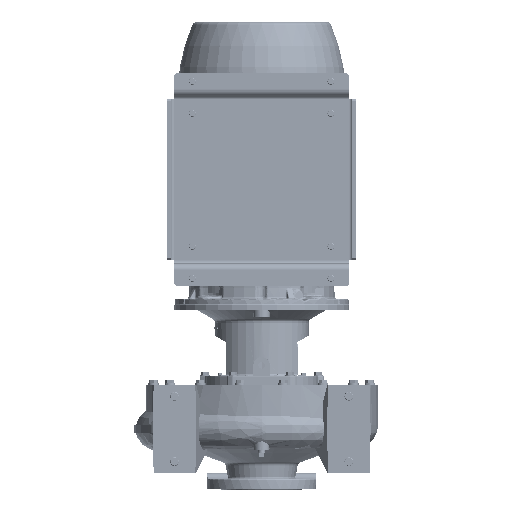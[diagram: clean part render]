
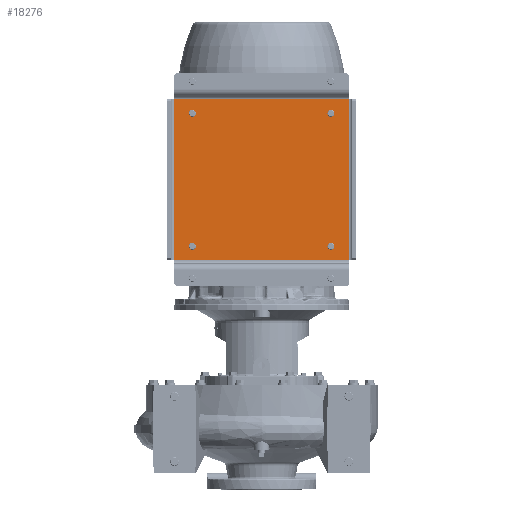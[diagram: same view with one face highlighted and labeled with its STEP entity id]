
A CAD part, front view. The second image highlights one B-rep face of the part: STEP entity #18276.
In plain terms, the highlighted planar face has unit normal (0, -1, 0).
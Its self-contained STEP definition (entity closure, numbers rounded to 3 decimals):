
#1291 = AXIS2_PLACEMENT_3D ( 'NONE', #14996, #167827, #277441 ) ;
#2059 = AXIS2_PLACEMENT_3D ( 'NONE', #80968, #14714, #254116 ) ;
#12425 = DIRECTION ( 'NONE',  ( 0., 0., -1. ) ) ;
#12529 = ORIENTED_EDGE ( 'NONE', *, *, #94201, .T. ) ;
#12885 = VECTOR ( 'NONE', #130720, 1000. ) ;
#14714 = DIRECTION ( 'NONE',  ( 0., 1., 0. ) ) ;
#14996 = CARTESIAN_POINT ( 'NONE',  ( 91.5, 71., -58. ) ) ;
#15908 = EDGE_CURVE ( 'NONE', #232606, #228880, #112355, .T. ) ;
#18276 = ADVANCED_FACE ( 'NONE', ( #191160, #169518, #59933, #84370, #234443 ), #256096, .T. ) ;
#18399 = VERTEX_POINT ( 'NONE', #160285 ) ;
#20132 = DIRECTION ( 'NONE',  ( -1., 0., 0. ) ) ;
#26286 = CIRCLE ( 'NONE', #90686, 8. ) ;
#30358 = EDGE_LOOP ( 'NONE', ( #262938, #204323 ) ) ;
#31152 = DIRECTION ( 'NONE',  ( 1., 0., 0. ) ) ;
#32939 = ORIENTED_EDGE ( 'NONE', *, *, #273044, .T. ) ;
#47120 = VERTEX_POINT ( 'NONE', #117783 ) ;
#47406 = AXIS2_PLACEMENT_3D ( 'NONE', #75531, #254366, #163521 ) ;
#54305 = CARTESIAN_POINT ( 'NONE',  ( 396.5, 71., -58. ) ) ;
#59933 = FACE_BOUND ( 'NONE', #125660, .T. ) ;
#62133 = CARTESIAN_POINT ( 'NONE',  ( 91.5, 71., -50. ) ) ;
#66879 = EDGE_LOOP ( 'NONE', ( #32939, #269630 ) ) ;
#70822 = CARTESIAN_POINT ( 'NONE',  ( 91.5, 71., -66. ) ) ;
#75531 = CARTESIAN_POINT ( 'NONE',  ( 396.5, 71., -58. ) ) ;
#75806 = AXIS2_PLACEMENT_3D ( 'NONE', #54305, #272096, #96107 ) ;
#76873 = VERTEX_POINT ( 'NONE', #165179 ) ;
#77996 = VERTEX_POINT ( 'NONE', #117810 ) ;
#80968 = CARTESIAN_POINT ( 'NONE',  ( 91.5, 71., -58. ) ) ;
#81982 = CARTESIAN_POINT ( 'NONE',  ( 396.5, 71., -384. ) ) ;
#82131 = CARTESIAN_POINT ( 'NONE',  ( 59., 71., -16. ) ) ;
#83555 = LINE ( 'NONE', #82131, #96799 ) ;
#84370 = FACE_BOUND ( 'NONE', #66879, .T. ) ;
#84922 = LINE ( 'NONE', #258086, #176103 ) ;
#85946 = EDGE_CURVE ( 'NONE', #144053, #47120, #279510, .T. ) ;
#90686 = AXIS2_PLACEMENT_3D ( 'NONE', #177269, #265269, #155646 ) ;
#91944 = CARTESIAN_POINT ( 'NONE',  ( 59., 71., -418. ) ) ;
#94201 = EDGE_CURVE ( 'NONE', #260769, #216745, #83555, .T. ) ;
#94652 = CARTESIAN_POINT ( 'NONE',  ( 429., 71., -16. ) ) ;
#96107 = DIRECTION ( 'NONE',  ( 0., 0., -1. ) ) ;
#96135 = ORIENTED_EDGE ( 'NONE', *, *, #164119, .T. ) ;
#96799 = VECTOR ( 'NONE', #20132, 1000. ) ;
#98561 = AXIS2_PLACEMENT_3D ( 'NONE', #253262, #147863, #12425 ) ;
#104362 = CARTESIAN_POINT ( 'NONE',  ( 91.5, 71., -376. ) ) ;
#112355 = CIRCLE ( 'NONE', #2059, 8. ) ;
#115634 = EDGE_CURVE ( 'NONE', #76873, #132785, #157930, .T. ) ;
#117783 = CARTESIAN_POINT ( 'NONE',  ( 396.5, 71., -368. ) ) ;
#117810 = CARTESIAN_POINT ( 'NONE',  ( 91.5, 71., -368. ) ) ;
#118985 = EDGE_LOOP ( 'NONE', ( #210765, #225366 ) ) ;
#125660 = EDGE_LOOP ( 'NONE', ( #235225, #135805 ) ) ;
#126482 = CIRCLE ( 'NONE', #75806, 8. ) ;
#130720 = DIRECTION ( 'NONE',  ( 0., 0., 1. ) ) ;
#131031 = EDGE_CURVE ( 'NONE', #208018, #194847, #182573, .T. ) ;
#131878 = CARTESIAN_POINT ( 'NONE',  ( 396.5, 71., -376. ) ) ;
#132785 = VERTEX_POINT ( 'NONE', #151644 ) ;
#135528 = DIRECTION ( 'NONE',  ( 0., 1., 0. ) ) ;
#135805 = ORIENTED_EDGE ( 'NONE', *, *, #85946, .T. ) ;
#143898 = CIRCLE ( 'NONE', #1291, 8. ) ;
#144053 = VERTEX_POINT ( 'NONE', #81982 ) ;
#147863 = DIRECTION ( 'NONE',  ( 0., -1., 0. ) ) ;
#149486 = EDGE_LOOP ( 'NONE', ( #12529, #96135, #207503, #231508 ) ) ;
#151644 = CARTESIAN_POINT ( 'NONE',  ( 396.5, 71., -50. ) ) ;
#155646 = DIRECTION ( 'NONE',  ( 0., 0., -1. ) ) ;
#157930 = CIRCLE ( 'NONE', #47406, 8. ) ;
#158591 = CARTESIAN_POINT ( 'NONE',  ( 91.5, 71., -376. ) ) ;
#160285 = CARTESIAN_POINT ( 'NONE',  ( 91.5, 71., -384. ) ) ;
#163521 = DIRECTION ( 'NONE',  ( 0., 0., -1. ) ) ;
#164119 = EDGE_CURVE ( 'NONE', #216745, #208018, #84922, .T. ) ;
#165179 = CARTESIAN_POINT ( 'NONE',  ( 396.5, 71., -66. ) ) ;
#167827 = DIRECTION ( 'NONE',  ( 0., 1., 0. ) ) ;
#169518 = FACE_BOUND ( 'NONE', #30358, .T. ) ;
#176103 = VECTOR ( 'NONE', #236435, 1000. ) ;
#176553 = DIRECTION ( 'NONE',  ( 0., 0., -1. ) ) ;
#177269 = CARTESIAN_POINT ( 'NONE',  ( 396.5, 71., -376. ) ) ;
#177967 = DIRECTION ( 'NONE',  ( 0., 1., 0. ) ) ;
#182573 = LINE ( 'NONE', #250349, #218995 ) ;
#190394 = AXIS2_PLACEMENT_3D ( 'NONE', #158591, #135528, #219211 ) ;
#191160 = FACE_OUTER_BOUND ( 'NONE', #149486, .T. ) ;
#192351 = DIRECTION ( 'NONE',  ( 0., 0., -1. ) ) ;
#194847 = VERTEX_POINT ( 'NONE', #234223 ) ;
#196591 = EDGE_CURVE ( 'NONE', #228880, #232606, #143898, .T. ) ;
#201269 = AXIS2_PLACEMENT_3D ( 'NONE', #131878, #177967, #176553 ) ;
#202814 = CARTESIAN_POINT ( 'NONE',  ( 59., 71., -16. ) ) ;
#204323 = ORIENTED_EDGE ( 'NONE', *, *, #196591, .T. ) ;
#207503 = ORIENTED_EDGE ( 'NONE', *, *, #131031, .T. ) ;
#208018 = VERTEX_POINT ( 'NONE', #91944 ) ;
#210765 = ORIENTED_EDGE ( 'NONE', *, *, #271226, .T. ) ;
#212555 = DIRECTION ( 'NONE',  ( 0., 1., 0. ) ) ;
#216745 = VERTEX_POINT ( 'NONE', #202814 ) ;
#217964 = CIRCLE ( 'NONE', #190394, 8. ) ;
#218645 = LINE ( 'NONE', #224327, #12885 ) ;
#218995 = VECTOR ( 'NONE', #31152, 1000. ) ;
#219211 = DIRECTION ( 'NONE',  ( 0., 0., -1. ) ) ;
#224327 = CARTESIAN_POINT ( 'NONE',  ( 429., 71., -16. ) ) ;
#225366 = ORIENTED_EDGE ( 'NONE', *, *, #115634, .T. ) ;
#228880 = VERTEX_POINT ( 'NONE', #70822 ) ;
#231508 = ORIENTED_EDGE ( 'NONE', *, *, #235574, .T. ) ;
#232606 = VERTEX_POINT ( 'NONE', #62133 ) ;
#234223 = CARTESIAN_POINT ( 'NONE',  ( 429., 71., -418. ) ) ;
#234443 = FACE_BOUND ( 'NONE', #118985, .T. ) ;
#235225 = ORIENTED_EDGE ( 'NONE', *, *, #259188, .T. ) ;
#235574 = EDGE_CURVE ( 'NONE', #194847, #260769, #218645, .T. ) ;
#236435 = DIRECTION ( 'NONE',  ( 0., 0., -1. ) ) ;
#237641 = CIRCLE ( 'NONE', #273862, 8. ) ;
#250349 = CARTESIAN_POINT ( 'NONE',  ( 429., 71., -418. ) ) ;
#251228 = EDGE_CURVE ( 'NONE', #18399, #77996, #217964, .T. ) ;
#253262 = CARTESIAN_POINT ( 'NONE',  ( 0., 71., 0. ) ) ;
#254116 = DIRECTION ( 'NONE',  ( 0., 0., -1. ) ) ;
#254366 = DIRECTION ( 'NONE',  ( 0., 1., 0. ) ) ;
#256096 = PLANE ( 'NONE',  #98561 ) ;
#258086 = CARTESIAN_POINT ( 'NONE',  ( 59., 71., -418. ) ) ;
#259188 = EDGE_CURVE ( 'NONE', #47120, #144053, #26286, .T. ) ;
#260769 = VERTEX_POINT ( 'NONE', #94652 ) ;
#262938 = ORIENTED_EDGE ( 'NONE', *, *, #15908, .T. ) ;
#265269 = DIRECTION ( 'NONE',  ( 0., 1., 0. ) ) ;
#269630 = ORIENTED_EDGE ( 'NONE', *, *, #251228, .T. ) ;
#271226 = EDGE_CURVE ( 'NONE', #132785, #76873, #126482, .T. ) ;
#272096 = DIRECTION ( 'NONE',  ( 0., 1., 0. ) ) ;
#273044 = EDGE_CURVE ( 'NONE', #77996, #18399, #237641, .T. ) ;
#273862 = AXIS2_PLACEMENT_3D ( 'NONE', #104362, #212555, #192351 ) ;
#277441 = DIRECTION ( 'NONE',  ( 0., 0., -1. ) ) ;
#279510 = CIRCLE ( 'NONE', #201269, 8. ) ;
